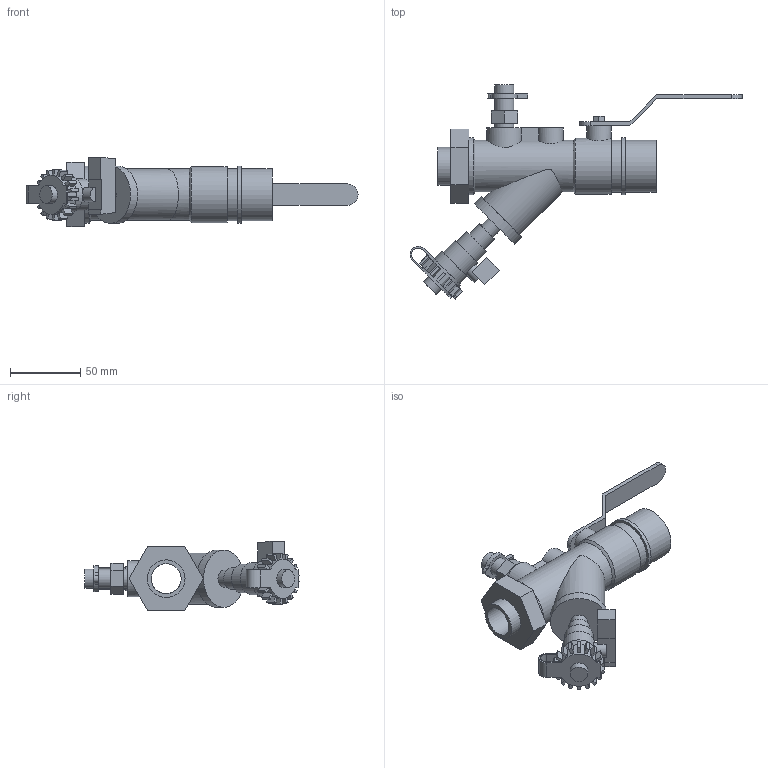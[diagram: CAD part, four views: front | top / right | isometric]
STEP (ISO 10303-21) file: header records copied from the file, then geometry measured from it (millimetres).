
FILE_DESCRIPTION(/* description */ ('VIC Y-STRAINER/BALL SERIES 78Y (FPT)','CAx-IF Rec.Pracs.---Representation and Presentation of Product Manufacturing Information (PMI)---4.0---2014-10-13'),/* implementation_level */ '2;1');
FILE_NAME(/* name */ 'C:\Users\kkamble\Desktop\extraction\OldVersions\Victaulic_IPS_Valve Ball Y Strainer Combination_Series 78Y (FPT)\Victaulic_IPS_Valve Ball Y Strainer Combination_Series 78Y (FPT)_01.0x0.50 (25x15).stp',/* time_stamp */ '2020-10-19T10:38:47+05:00',/* author */ ('kkamble'),/* organization */ ('Victaulic'),/* preprocessor_version */ 'ST-DEVELOPER v17.2',/* originating_system */ 'Autodesk Inventor 2019',/* authorisation */ '');
FILE_SCHEMA (('AP242_MANAGED_MODEL_BASED_3D_ENGINEERING_MIM_LF { 1 0 10303 442 1 1 4 }'));
Length unit declared in the file: inch
Products named in the file (1): 78Y-1.0x0.5
Bounding box: 235.7 x 151.95 x 49.53 mm (x, y, z)
Volume: 118780.4 mm3; surface area: 72900.9 mm2
Topology: 2 solids, 3 shells, 232 faces, 595 edges, 401 vertices
Faces by surface type: plane 166, cylinder 64, cone 2
Full cylindrical faces by diameter (mm): 10.16 x1, 10.998 x1, 11.887 x1, 12.565 x1, 13.462 x5, 15.24 x1, 17.272 x1, 20.32 x1, 21.336 x1, 22.86 x1, 25.4 x1, 26.695 x2, 27.94 x1, 29.693 x1, 33.401 x2, 36.322 x1, 36.576 x1, 36.83 x2, 39.624 x1, 40.64 x3
Entity records: 7967 total; most frequent: CARTESIAN_POINT 1907, DIRECTION 1247, ORIENTED_EDGE 1190, EDGE_CURVE 595, AXIS2_PLACEMENT_3D 441, VERTEX_POINT 401, LINE 365, VECTOR 365
